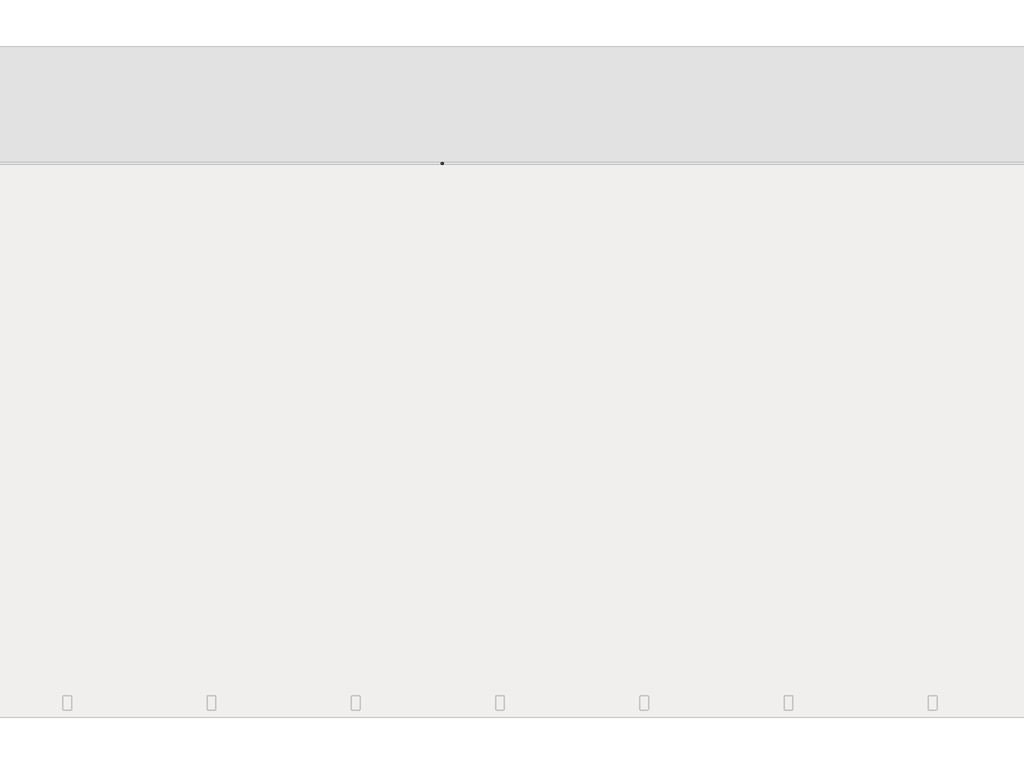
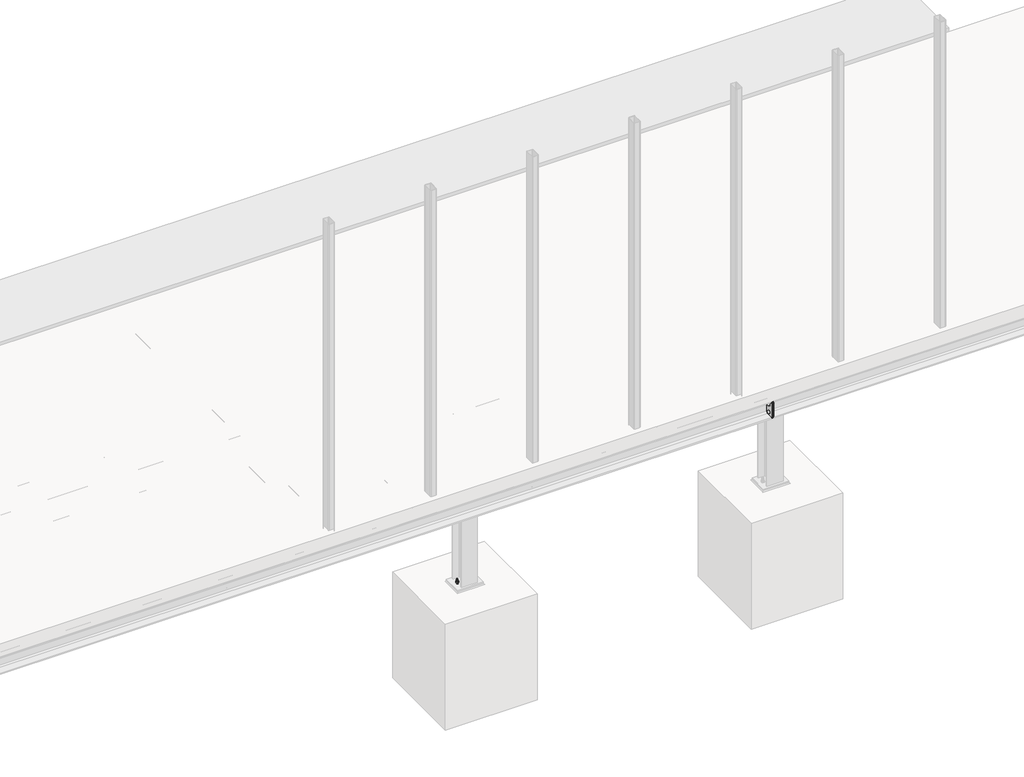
# One storey, part 11 of 36: 13 proxies.
"""IFC4 building model written with IfcOpenShell, lengths in millimetres."""

import ifcopenshell
import ifcopenshell.guid

model = None  # the IFC model being written
_history = None  # IfcOwnerHistory: only IFC2X3 demands one
_inside = {}  # id of a spatial element -> (the spatial element, [elements in it])
_under = {}  # id of a project, library or spatial element -> (it, [spatial elements below it])
_declared = {}  # id of a project -> (the project, [libraries it declares])
_typed = {}  # id of a type object -> (the type object, [elements of that type])
_made_of = {}  # id of a material, layer set ... -> (it, [elements and type objects made of it])


def new_model(schema):
    """Start an empty IFC model of exactly this schema.

    Asked for "IFC4X3", IfcOpenShell would pick the latest addendum, in which some entities
    have other attributes; the version numbers below select the first issue.
    IFC2X3 requires an IfcOwnerHistory on every rooted entity: one is made here for all.
    """
    global model, _history
    if schema == "IFC4X3":
        model = ifcopenshell.file(schema_version=(4, 3, 0, 0))
    else:
        model = ifcopenshell.file(schema=schema)
    _inside.clear()
    _under.clear()
    _declared.clear()
    _typed.clear()
    _made_of.clear()
    _history = None
    if model.schema == "IFC2X3":
        org = make("IfcOrganization", Name="unknown")
        user = make(
            "IfcPersonAndOrganization",
            ThePerson=make("IfcPerson", FamilyName="unknown"),
            TheOrganization=org,
        )
        app = make(
            "IfcApplication",
            ApplicationDeveloper=org,
            Version="unknown",
            ApplicationFullName="unknown",
            ApplicationIdentifier="unknown",
        )
        _history = make(
            "IfcOwnerHistory",
            OwningUser=user,
            OwningApplication=app,
            ChangeAction="ADDED",
            CreationDate=0,
        )
    return model


def make(cls, **values):
    """One entity of the class cls with the attributes given. An attribute that is None is left unset."""
    return model.create_entity(
        cls, **{name: value for name, value in values.items() if value is not None}
    )


def rooted(cls, **values):
    """An entity with a GlobalId (a new one), such as an element, a storey or a relation."""
    return make(cls, GlobalId=ifcopenshell.guid.new(), OwnerHistory=_history, **values)


def si_unit(unit_type, name, prefix=None):
    """IfcSIUnit, for example si_unit("LENGTHUNIT", "METRE", prefix="MILLI")."""
    return make("IfcSIUnit", UnitType=unit_type, Prefix=prefix, Name=name)


def assignment(units):
    """IfcUnitAssignment: the units of a project."""
    return None if units is None else make("IfcUnitAssignment", Units=units)


def point(xyz):
    """IfcCartesianPoint."""
    return None if xyz is None else make("IfcCartesianPoint", Coordinates=xyz)


def direction(xyz):
    """IfcDirection."""
    return None if xyz is None else make("IfcDirection", DirectionRatios=xyz)


def frame(location, z_axis=None, x_axis=None):
    """IfcAxis2Placement3D, a coordinate frame: its origin and axes. An axis left out is left unset."""
    return make(
        "IfcAxis2Placement3D",
        Location=point(location),
        Axis=direction(z_axis),
        RefDirection=direction(x_axis),
    )


def frame_2d(location, x_axis=None):
    """IfcAxis2Placement2D, a coordinate frame in the plane: its origin and x axis."""
    return make(
        "IfcAxis2Placement2D", Location=point(location), RefDirection=direction(x_axis)
    )


def origin():
    """The frame at (0, 0, 0) with its axes left unset."""
    return frame((0.0, 0.0, 0.0))


def place(relative_to, where):
    """IfcLocalPlacement: puts the frame where relative to a parent placement (None: the world)."""
    return make(
        "IfcLocalPlacement", PlacementRelTo=relative_to, RelativePlacement=where
    )


def context(
    kind, dimensions, precision=None, world=None, true_north=None, identifier=None
):
    """IfcGeometricRepresentationContext, for example the 3D "Model" context."""
    return make(
        "IfcGeometricRepresentationContext",
        ContextIdentifier=identifier,
        ContextType=kind,
        CoordinateSpaceDimension=dimensions,
        Precision=precision,
        WorldCoordinateSystem=world,
        TrueNorth=true_north,
    )


def project(units=None, contexts=None):
    """IfcProject with its units and contexts."""
    return rooted(
        "IfcProject",
        Name="project",
        RepresentationContexts=contexts,
        UnitsInContext=assignment(units),
    )


def spatial(cls, under=None, at=None, **own):
    """A site, building, storey or space (cls), placed at a placement, below another one or the project."""
    s = rooted(cls, ObjectPlacement=at, **own)
    if under is not None:
        _under.setdefault(under.id(), (under, []))[1].append(s)
    return s


def polyline(points):
    """IfcPolyline through the points."""
    return make("IfcPolyline", Points=[point(p) for p in points])


def circle_curve(where, radius):
    """IfcCircle in the frame where."""
    return make("IfcCircle", Position=where, Radius=radius)


def trimmed(basis, trim1, trim2, sense, master):
    """IfcTrimmedCurve: the piece of a basis curve between two trims."""
    return make(
        "IfcTrimmedCurve",
        BasisCurve=basis,
        Trim1=trim1,
        Trim2=trim2,
        SenseAgreement=sense,
        MasterRepresentation=master,
    )


def segment(curve, same_sense, transition):
    """IfcCompositeCurveSegment."""
    return make(
        "IfcCompositeCurveSegment",
        Transition=transition,
        SameSense=same_sense,
        ParentCurve=curve,
    )


def composite_curve(segments, self_intersect=None):
    """IfcCompositeCurve: segments joined end to end."""
    return make("IfcCompositeCurve", Segments=segments, SelfIntersect=self_intersect)


def outline(outer, holes=None, kind="AREA"):
    """IfcArbitraryClosedProfileDef: a profile drawn as a closed curve; with holes, ...WithVoids."""
    if holes is None:
        return make("IfcArbitraryClosedProfileDef", ProfileType=kind, OuterCurve=outer)
    return make(
        "IfcArbitraryProfileDefWithVoids",
        ProfileType=kind,
        OuterCurve=outer,
        InnerCurves=holes,
    )


def extrude(swept, where, along, depth):
    """IfcExtrudedAreaSolid: the profile swept, set in the frame where, extruded along a direction by depth."""
    return make(
        "IfcExtrudedAreaSolid",
        SweptArea=swept,
        Position=where,
        ExtrudedDirection=direction(along),
        Depth=depth,
    )


def shape(context_of_items, identifier, shape_type, items):
    """IfcShapeRepresentation: the items that make up one representation, for example the "Body"."""
    return make(
        "IfcShapeRepresentation",
        ContextOfItems=context_of_items,
        RepresentationIdentifier=identifier,
        RepresentationType=shape_type,
        Items=items,
    )


def made_of(thing, what):
    """Note that an element or type object is made of a material, layer set ...; save() writes the relation."""
    if what is not None:
        _made_of.setdefault(what.id(), (what, []))[1].append(thing)
    return thing


def element(
    cls,
    number,
    at=None,
    inside=None,
    cuts=None,
    type_object=None,
    material=None,
    context=None,
    identifier="Body",
    shape_type=None,
    held_by="IfcProductDefinitionShape",
    body=None,
    shapes=None,
    **own,
):
    """One element of the class cls, such as IfcWall. Its Tag is "e" and its number.

    at: its placement. inside: the storey or other place that contains it. cuts: it is an
    opening in that element (IfcRelVoidsElement). A single representation is given by context,
    identifier, shape_type and body (its items); several are given by shapes. held_by: the class
    of the entity that holds the representations. save() writes the other relations.
    """
    e = rooted(cls, Tag="e%d" % number, ObjectPlacement=at, **own)
    if body is not None:
        shapes = [shape(context, identifier, shape_type, body)]
    if shapes is not None:
        e.Representation = make(held_by, Representations=shapes)
    if inside is not None:
        _inside.setdefault(inside.id(), (inside, []))[1].append(e)
    if cuts is not None:
        rooted(
            "IfcRelVoidsElement", RelatingBuildingElement=cuts, RelatedOpeningElement=e
        )
    if type_object is not None:
        _typed.setdefault(type_object.id(), (type_object, []))[1].append(e)
    return made_of(e, material)


def aggregate(whole, parts):
    """IfcRelAggregates: a whole, such as a stair, and the parts it consists of."""
    return rooted("IfcRelAggregates", RelatingObject=whole, RelatedObjects=parts)


def save(model, path):
    """Write the relations noted so far, then the file.

    IfcRelAggregates (storeys below a building ...), IfcRelContainedInSpatialStructure (elements
    in a storey), IfcRelDefinesByType, IfcRelAssociatesMaterial and IfcRelDeclares: one each for
    every whole, place, type object, material and project.
    """
    for whole, parts in _under.values():
        aggregate(whole, parts)
    for where, things in _inside.values():
        rooted(
            "IfcRelContainedInSpatialStructure",
            RelatedElements=things,
            RelatingStructure=where,
        )
    for kind, things in _typed.values():
        rooted("IfcRelDefinesByType", RelatedObjects=things, RelatingType=kind)
    for what, things in _made_of.values():
        rooted("IfcRelAssociatesMaterial", RelatedObjects=things, RelatingMaterial=what)
    for by, libraries in _declared.values():
        rooted("IfcRelDeclares", RelatingContext=by, RelatedDefinitions=libraries)
    model.write(path)


model = new_model("IFC4")

# Units and contexts
model_context = context("Model", 3, world=origin())
ifc_project = project(units=[si_unit("LENGTHUNIT", "METRE", prefix="MILLI")], contexts=[model_context])

# Site, building, storey
site = spatial("IfcSite", under=ifc_project)
building = spatial("IfcBuilding", under=site)
storey = spatial("IfcBuildingStorey", under=building, Name="Základy", Elevation=-1200.0)

# Proxies
placement = place(None, origin())
element("IfcBuildingElementProxy", 1, Name="PLECH", ObjectType="PLECH", at=placement, inside=storey, context=model_context, shape_type="SweptSolid", body=[
    extrude(outline(polyline([(5960.0, 3775.0), (6140.0, 3775.0), (6140.0, 3767.0), (5960.0, 3767.0), (5960.0, 3775.0)])), frame((0.0, 0.0, -316.0), z_axis=(0.0, 0.0, 1.0), x_axis=(1.0, 0.0, 0.0)), (0.0, 0.0, 1.0), 132.0),
])
element("IfcBuildingElementProxy", 2, Name="PLECH", ObjectType="PLECH", at=placement, inside=storey, context=model_context, shape_type="SweptSolid", body=[
    extrude(outline(polyline([(6140.0, 1346.0), (6140.0, 1174.0), (5960.0, 1174.0), (5960.0, 1346.0), (6140.0, 1346.0)])), frame((0.0, 0.0, -350.0), z_axis=(0.0, 0.0, 1.0), x_axis=(1.0, 0.0, 0.0)), (0.0, 0.0, 1.0), 10.0),
])
element("IfcBuildingElementProxy", 3, Name="PLECH", ObjectType="PLECH", at=placement, inside=storey, context=model_context, shape_type="SweptSolid", body=[
    extrude(outline(composite_curve([segment(polyline([(3785.0, -170.5), (3834.5, -170.5)]), True, "CONTINUOUS"), segment(trimmed(circle_curve(frame_2d((3854.5, -170.5)), 20.0), [point((3834.5, -170.5))], [point((3854.5, -190.5))], True, "CARTESIAN"), True, "CONTINUOUS"), segment(polyline([(3854.5, -190.5), (3854.5, -309.5)]), True, "CONTINUOUS"), segment(trimmed(circle_curve(frame_2d((3854.5, -329.5)), 20.0), [point((3854.5, -309.5))], [point((3834.5, -329.5))], True, "CARTESIAN"), True, "CONTINUOUS"), segment(polyline([(3834.5, -329.5), (3785.0, -329.5), (3785.0, -170.5)]), True, "CONTINUOUS")], self_intersect=False)), frame((6046.0, 0.0, 0.0), z_axis=(1.0, 0.0, 0.0), x_axis=(0.0, 1.0, 0.0)), (0.0, 0.0, 1.0), 8.0),
])
element("IfcBuildingElementProxy", 4, Name="PLECH", ObjectType="PLECH", at=placement, inside=storey, context=model_context, shape_type="SweptSolid", body=[
    extrude(outline(polyline([(5960.0, 3785.0), (6140.0, 3785.0), (6140.0, 3775.0), (5960.0, 3775.0), (5960.0, 3785.0)])), frame((0.0, 0.0, -332.0), z_axis=(0.0, 0.0, 1.0), x_axis=(1.0, 0.0, 0.0)), (0.0, 0.0, 1.0), 164.0),
])
element("IfcBuildingElementProxy", 5, Name="PLECH", ObjectType="PLECH", at=placement, inside=storey, context=model_context, shape_type="SweptSolid", body=[
    extrude(outline(polyline([(6650.0, 3855.0), (6650.0, 3785.0), (6640.0, 3785.0), (6640.0, 3855.0), (6650.0, 3855.0)])), frame((0.0, 0.0, -329.5), z_axis=(0.0, 0.0, 1.0), x_axis=(1.0, 0.0, 0.0)), (0.0, 0.0, 1.0), 159.0),
])
element("IfcBuildingElementProxy", 6, Name="PLECH", ObjectType="PLECH", at=placement, inside=storey, context=model_context, shape_type="SweptSolid", body=[
    extrude(outline(polyline([(8350.0, 190.0), (8350.0, 10.0), (8340.0, 10.0), (8340.0, 190.0), (8350.0, 190.0)])), frame((0.0, 0.0, -332.0), z_axis=(0.0, 0.0, 1.0), x_axis=(1.0, 0.0, 0.0)), (0.0, 0.0, 1.0), 164.0),
])
element("IfcBuildingElementProxy", 7, Name="PLECH", ObjectType="PLECH", at=placement, inside=storey, context=model_context, shape_type="SweptSolid", body=[
    extrude(outline(polyline([(6660.0, 3855.0), (6660.0, 3785.0), (6650.0, 3785.0), (6650.0, 3855.0), (6660.0, 3855.0)])), frame((0.0, 0.0, -329.5), z_axis=(0.0, 0.0, 1.0), x_axis=(1.0, 0.0, 0.0)), (0.0, 0.0, 1.0), 159.0),
])
element("IfcBuildingElementProxy", 8, Name="PLECH", ObjectType="PLECH", at=placement, inside=storey, context=model_context, shape_type="SweptSolid", body=[
    extrude(outline(polyline([(8360.0, 190.0), (8360.0, 10.0), (8350.0, 10.0), (8350.0, 190.0), (8360.0, 190.0)])), frame((0.0, 0.0, -332.0), z_axis=(0.0, 0.0, 1.0), x_axis=(1.0, 0.0, 0.0)), (0.0, 0.0, 1.0), 164.0),
])
element("IfcBuildingElementProxy", 9, Name="Bolt assembly", ObjectType="Bolt assembly", at=placement, inside=storey, context=model_context, shape_type="SweptSolid", body=[
    extrude(outline(polyline([(5982.7364934, 1260.0), (5978.8682467, 1253.3000002), (5971.1317533, 1253.3000002), (5967.2635066, 1260.0), (5971.1317533, 1266.6999998), (5978.8682467, 1266.6999998), (5982.7364934, 1260.0)])), frame((0.0, 0.0, -2122.0), z_axis=(0.0, 0.0, 1.0), x_axis=(1.0, 0.0, 0.0)), (0.0, 0.0, 1.0), 132.0),
    extrude(outline(composite_curve([segment(trimmed(circle_curve(frame_2d((5975.0, 1260.0)), 8.0), [point((5983.0, 1260.0))], [point((5967.0, 1260.0))], False, "CARTESIAN"), True, "CONTINUOUS"), segment(trimmed(circle_curve(frame_2d((5975.0, 1260.0)), 8.0), [point((5967.0, 1260.0))], [point((5983.0, 1260.0))], False, "CARTESIAN"), True, "CONTINUOUS")], self_intersect=False)), frame((0.0, 0.0, -1990.0), z_axis=(0.0, 0.0, 1.0), x_axis=(1.0, 0.0, 0.0)), (0.0, 0.0, 1.0), 58.0),
    extrude(outline(composite_curve([segment(trimmed(circle_curve(frame_2d((5975.0, 1260.0)), 15.0), [point((5990.0, 1260.0))], [point((5960.0, 1260.0))], False, "CARTESIAN"), True, "CONTINUOUS"), segment(trimmed(circle_curve(frame_2d((5975.0, 1260.0)), 15.0), [point((5960.0, 1260.0))], [point((5990.0, 1260.0))], False, "CARTESIAN"), True, "CONTINUOUS")], self_intersect=False)), frame((0.0, 0.0, -1975.0), z_axis=(0.0, 0.0, 1.0), x_axis=(1.0, 0.0, 0.0)), (0.0, 0.0, 1.0), 3.0),
    extrude(outline(polyline([(5990.4441197, 1260.0), (5982.7220599, 1246.625), (5967.2779401, 1246.625), (5959.5558803, 1260.0), (5967.2779401, 1273.375), (5982.7220599, 1273.375), (5990.4441197, 1260.0)])), frame((0.0, 0.0, -1972.0), z_axis=(0.0, 0.0, 1.0), x_axis=(1.0, 0.0, 0.0)), (0.0, 0.0, 1.0), 13.0),
    extrude(outline(composite_curve([segment(trimmed(circle_curve(frame_2d((5975.0, 1260.0)), 9.0), [point((5984.0, 1260.0))], [point((5966.0, 1260.0))], False, "CARTESIAN"), True, "CONTINUOUS"), segment(trimmed(circle_curve(frame_2d((5975.0, 1260.0)), 9.0), [point((5966.0, 1260.0))], [point((5984.0, 1260.0))], False, "CARTESIAN"), True, "CONTINUOUS")], self_intersect=False)), frame((0.0, 0.0, -1990.0), z_axis=(0.0, 0.0, 1.0), x_axis=(1.0, 0.0, 0.0)), (0.0, 0.0, 1.0), 15.1),
    extrude(outline(polyline([(6132.7364934, 1260.0), (6128.8682467, 1253.3000002), (6121.1317533, 1253.3000002), (6117.2635066, 1260.0), (6121.1317533, 1266.6999998), (6128.8682467, 1266.6999998), (6132.7364934, 1260.0)])), frame((0.0, 0.0, -2122.0), z_axis=(0.0, 0.0, 1.0), x_axis=(1.0, 0.0, 0.0)), (0.0, 0.0, 1.0), 132.0),
    extrude(outline(composite_curve([segment(trimmed(circle_curve(frame_2d((6125.0, 1260.0)), 8.0), [point((6133.0, 1260.0))], [point((6117.0, 1260.0))], False, "CARTESIAN"), True, "CONTINUOUS"), segment(trimmed(circle_curve(frame_2d((6125.0, 1260.0)), 8.0), [point((6117.0, 1260.0))], [point((6133.0, 1260.0))], False, "CARTESIAN"), True, "CONTINUOUS")], self_intersect=False)), frame((0.0, 0.0, -1990.0), z_axis=(0.0, 0.0, 1.0), x_axis=(1.0, 0.0, 0.0)), (0.0, 0.0, 1.0), 58.0),
    extrude(outline(composite_curve([segment(trimmed(circle_curve(frame_2d((6125.0, 1260.0)), 15.0), [point((6140.0, 1260.0))], [point((6110.0, 1260.0))], False, "CARTESIAN"), True, "CONTINUOUS"), segment(trimmed(circle_curve(frame_2d((6125.0, 1260.0)), 15.0), [point((6110.0, 1260.0))], [point((6140.0, 1260.0))], False, "CARTESIAN"), True, "CONTINUOUS")], self_intersect=False)), frame((0.0, 0.0, -1975.0), z_axis=(0.0, 0.0, 1.0), x_axis=(1.0, 0.0, 0.0)), (0.0, 0.0, 1.0), 3.0),
    extrude(outline(polyline([(6140.4441197, 1260.0), (6132.7220599, 1246.625), (6117.2779401, 1246.625), (6109.5558803, 1260.0), (6117.2779401, 1273.375), (6132.7220599, 1273.375), (6140.4441197, 1260.0)])), frame((0.0, 0.0, -1972.0), z_axis=(0.0, 0.0, 1.0), x_axis=(1.0, 0.0, 0.0)), (0.0, 0.0, 1.0), 13.0),
    extrude(outline(composite_curve([segment(trimmed(circle_curve(frame_2d((6125.0, 1260.0)), 9.0), [point((6134.0, 1260.0))], [point((6116.0, 1260.0))], False, "CARTESIAN"), True, "CONTINUOUS"), segment(trimmed(circle_curve(frame_2d((6125.0, 1260.0)), 9.0), [point((6116.0, 1260.0))], [point((6134.0, 1260.0))], False, "CARTESIAN"), True, "CONTINUOUS")], self_intersect=False)), frame((0.0, 0.0, -1990.0), z_axis=(0.0, 0.0, 1.0), x_axis=(1.0, 0.0, 0.0)), (0.0, 0.0, 1.0), 15.1),
])
element("IfcBuildingElementProxy", 10, Name="Bolt assembly", ObjectType="Bolt assembly", at=placement, inside=storey, context=model_context, shape_type="SweptSolid", body=[
    extrude(outline(composite_curve([segment(trimmed(circle_curve(frame_2d((6000.0, 1220.0)), 6.5), [point((6006.5, 1220.0))], [point((5993.5, 1220.0))], False, "CARTESIAN"), True, "CONTINUOUS"), segment(trimmed(circle_curve(frame_2d((6000.0, 1220.0)), 6.5), [point((5993.5, 1220.0))], [point((6006.5, 1220.0))], False, "CARTESIAN"), True, "CONTINUOUS")], self_intersect=False)), frame((0.0, 0.0, -350.0), z_axis=(0.0, 0.0, 1.0), x_axis=(1.0, 0.0, 0.0)), (0.0, 0.0, 1.0), 10.1),
    extrude(outline(polyline([(6010.3923048, 1220.0), (6005.1961524, 1211.0), (5994.8038476, 1211.0), (5989.6076952, 1220.0), (5994.8038476, 1229.0), (6005.1961524, 1229.0), (6010.3923048, 1220.0)])), frame((0.0, 0.0, -323.5), z_axis=(0.0, 0.0, 1.0), x_axis=(1.0, 0.0, 0.0)), (0.0, 0.0, 1.0), 7.5),
    extrude(outline(composite_curve([segment(trimmed(circle_curve(frame_2d((6000.0, 1220.0)), 6.0), [point((6006.0, 1220.0))], [point((5994.0, 1220.0))], False, "CARTESIAN"), True, "CONTINUOUS"), segment(trimmed(circle_curve(frame_2d((6000.0, 1220.0)), 6.0), [point((5994.0, 1220.0))], [point((6006.0, 1220.0))], False, "CARTESIAN"), True, "CONTINUOUS")], self_intersect=False)), frame((0.0, 0.0, -368.5), z_axis=(0.0, 0.0, 1.0), x_axis=(1.0, 0.0, 0.0)), (0.0, 0.0, 1.0), 45.0),
    extrude(outline(composite_curve([segment(trimmed(circle_curve(frame_2d((6000.0, 1220.0)), 12.0), [point((6012.0, 1220.0))], [point((5988.0, 1220.0))], False, "CARTESIAN"), True, "CONTINUOUS"), segment(trimmed(circle_curve(frame_2d((6000.0, 1220.0)), 12.0), [point((5988.0, 1220.0))], [point((6012.0, 1220.0))], False, "CARTESIAN"), True, "CONTINUOUS")], self_intersect=False)), frame((0.0, 0.0, -326.0), z_axis=(0.0, 0.0, 1.0), x_axis=(1.0, 0.0, 0.0)), (0.0, 0.0, 1.0), 2.5),
    extrude(outline(composite_curve([segment(trimmed(circle_curve(frame_2d((6000.0, 1220.0)), 12.0), [point((6012.0, 1220.0))], [point((5988.0, 1220.0))], False, "CARTESIAN"), True, "CONTINUOUS"), segment(trimmed(circle_curve(frame_2d((6000.0, 1220.0)), 12.0), [point((5988.0, 1220.0))], [point((6012.0, 1220.0))], False, "CARTESIAN"), True, "CONTINUOUS")], self_intersect=False)), frame((0.0, 0.0, -352.5), z_axis=(0.0, 0.0, 1.0), x_axis=(1.0, 0.0, 0.0)), (0.0, 0.0, 1.0), 2.5),
    extrude(outline(polyline([(6010.9696551, 1220.0), (6005.4848276, 1210.5), (5994.5151724, 1210.5), (5989.0303449, 1220.0), (5994.5151724, 1229.5), (6005.4848276, 1229.5), (6010.9696551, 1220.0)])), frame((0.0, 0.0, -362.5), z_axis=(0.0, 0.0, 1.0), x_axis=(1.0, 0.0, 0.0)), (0.0, 0.0, 1.0), 10.0),
    extrude(outline(composite_curve([segment(trimmed(circle_curve(frame_2d((6000.0, 1220.0)), 6.5), [point((6006.5, 1220.0))], [point((5993.5, 1220.0))], False, "CARTESIAN"), True, "CONTINUOUS"), segment(trimmed(circle_curve(frame_2d((6000.0, 1220.0)), 6.5), [point((5993.5, 1220.0))], [point((6006.5, 1220.0))], False, "CARTESIAN"), True, "CONTINUOUS")], self_intersect=False)), frame((0.0, 0.0, -340.1), z_axis=(0.0, 0.0, 1.0), x_axis=(1.0, 0.0, 0.0)), (0.0, 0.0, 1.0), 14.0),
    extrude(outline(composite_curve([segment(trimmed(circle_curve(frame_2d((6100.0, 1220.0)), 6.5), [point((6106.5, 1220.0))], [point((6093.5, 1220.0))], False, "CARTESIAN"), True, "CONTINUOUS"), segment(trimmed(circle_curve(frame_2d((6100.0, 1220.0)), 6.5), [point((6093.5, 1220.0))], [point((6106.5, 1220.0))], False, "CARTESIAN"), True, "CONTINUOUS")], self_intersect=False)), frame((0.0, 0.0, -350.0), z_axis=(0.0, 0.0, 1.0), x_axis=(1.0, 0.0, 0.0)), (0.0, 0.0, 1.0), 10.1),
    extrude(outline(polyline([(6110.3923048, 1220.0), (6105.1961524, 1211.0), (6094.8038476, 1211.0), (6089.6076952, 1220.0), (6094.8038476, 1229.0), (6105.1961524, 1229.0), (6110.3923048, 1220.0)])), frame((0.0, 0.0, -323.5), z_axis=(0.0, 0.0, 1.0), x_axis=(1.0, 0.0, 0.0)), (0.0, 0.0, 1.0), 7.5),
    extrude(outline(composite_curve([segment(trimmed(circle_curve(frame_2d((6100.0, 1220.0)), 6.0), [point((6106.0, 1220.0))], [point((6094.0, 1220.0))], False, "CARTESIAN"), True, "CONTINUOUS"), segment(trimmed(circle_curve(frame_2d((6100.0, 1220.0)), 6.0), [point((6094.0, 1220.0))], [point((6106.0, 1220.0))], False, "CARTESIAN"), True, "CONTINUOUS")], self_intersect=False)), frame((0.0, 0.0, -368.5), z_axis=(0.0, 0.0, 1.0), x_axis=(1.0, 0.0, 0.0)), (0.0, 0.0, 1.0), 45.0),
    extrude(outline(composite_curve([segment(trimmed(circle_curve(frame_2d((6100.0, 1220.0)), 12.0), [point((6112.0, 1220.0))], [point((6088.0, 1220.0))], False, "CARTESIAN"), True, "CONTINUOUS"), segment(trimmed(circle_curve(frame_2d((6100.0, 1220.0)), 12.0), [point((6088.0, 1220.0))], [point((6112.0, 1220.0))], False, "CARTESIAN"), True, "CONTINUOUS")], self_intersect=False)), frame((0.0, 0.0, -326.0), z_axis=(0.0, 0.0, 1.0), x_axis=(1.0, 0.0, 0.0)), (0.0, 0.0, 1.0), 2.5),
    extrude(outline(composite_curve([segment(trimmed(circle_curve(frame_2d((6100.0, 1220.0)), 12.0), [point((6112.0, 1220.0))], [point((6088.0, 1220.0))], False, "CARTESIAN"), True, "CONTINUOUS"), segment(trimmed(circle_curve(frame_2d((6100.0, 1220.0)), 12.0), [point((6088.0, 1220.0))], [point((6112.0, 1220.0))], False, "CARTESIAN"), True, "CONTINUOUS")], self_intersect=False)), frame((0.0, 0.0, -352.5), z_axis=(0.0, 0.0, 1.0), x_axis=(1.0, 0.0, 0.0)), (0.0, 0.0, 1.0), 2.5),
    extrude(outline(polyline([(6110.9696551, 1220.0), (6105.4848276, 1210.5), (6094.5151724, 1210.5), (6089.0303449, 1220.0), (6094.5151724, 1229.5), (6105.4848276, 1229.5), (6110.9696551, 1220.0)])), frame((0.0, 0.0, -362.5), z_axis=(0.0, 0.0, 1.0), x_axis=(1.0, 0.0, 0.0)), (0.0, 0.0, 1.0), 10.0),
    extrude(outline(composite_curve([segment(trimmed(circle_curve(frame_2d((6100.0, 1220.0)), 6.5), [point((6106.5, 1220.0))], [point((6093.5, 1220.0))], False, "CARTESIAN"), True, "CONTINUOUS"), segment(trimmed(circle_curve(frame_2d((6100.0, 1220.0)), 6.5), [point((6093.5, 1220.0))], [point((6106.5, 1220.0))], False, "CARTESIAN"), True, "CONTINUOUS")], self_intersect=False)), frame((0.0, 0.0, -340.1), z_axis=(0.0, 0.0, 1.0), x_axis=(1.0, 0.0, 0.0)), (0.0, 0.0, 1.0), 14.0),
    extrude(outline(composite_curve([segment(trimmed(circle_curve(frame_2d((6000.0, 1300.0)), 6.5), [point((6006.5, 1300.0))], [point((5993.5, 1300.0))], False, "CARTESIAN"), True, "CONTINUOUS"), segment(trimmed(circle_curve(frame_2d((6000.0, 1300.0)), 6.5), [point((5993.5, 1300.0))], [point((6006.5, 1300.0))], False, "CARTESIAN"), True, "CONTINUOUS")], self_intersect=False)), frame((0.0, 0.0, -350.0), z_axis=(0.0, 0.0, 1.0), x_axis=(1.0, 0.0, 0.0)), (0.0, 0.0, 1.0), 10.1),
    extrude(outline(polyline([(6010.3923048, 1300.0), (6005.1961524, 1291.0), (5994.8038476, 1291.0), (5989.6076952, 1300.0), (5994.8038476, 1309.0), (6005.1961524, 1309.0), (6010.3923048, 1300.0)])), frame((0.0, 0.0, -323.5), z_axis=(0.0, 0.0, 1.0), x_axis=(1.0, 0.0, 0.0)), (0.0, 0.0, 1.0), 7.5),
    extrude(outline(composite_curve([segment(trimmed(circle_curve(frame_2d((6000.0, 1300.0)), 6.0), [point((6006.0, 1300.0))], [point((5994.0, 1300.0))], False, "CARTESIAN"), True, "CONTINUOUS"), segment(trimmed(circle_curve(frame_2d((6000.0, 1300.0)), 6.0), [point((5994.0, 1300.0))], [point((6006.0, 1300.0))], False, "CARTESIAN"), True, "CONTINUOUS")], self_intersect=False)), frame((0.0, 0.0, -368.5), z_axis=(0.0, 0.0, 1.0), x_axis=(1.0, 0.0, 0.0)), (0.0, 0.0, 1.0), 45.0),
    extrude(outline(composite_curve([segment(trimmed(circle_curve(frame_2d((6000.0, 1300.0)), 12.0), [point((6012.0, 1300.0))], [point((5988.0, 1300.0))], False, "CARTESIAN"), True, "CONTINUOUS"), segment(trimmed(circle_curve(frame_2d((6000.0, 1300.0)), 12.0), [point((5988.0, 1300.0))], [point((6012.0, 1300.0))], False, "CARTESIAN"), True, "CONTINUOUS")], self_intersect=False)), frame((0.0, 0.0, -326.0), z_axis=(0.0, 0.0, 1.0), x_axis=(1.0, 0.0, 0.0)), (0.0, 0.0, 1.0), 2.5),
    extrude(outline(composite_curve([segment(trimmed(circle_curve(frame_2d((6000.0, 1300.0)), 12.0), [point((6012.0, 1300.0))], [point((5988.0, 1300.0))], False, "CARTESIAN"), True, "CONTINUOUS"), segment(trimmed(circle_curve(frame_2d((6000.0, 1300.0)), 12.0), [point((5988.0, 1300.0))], [point((6012.0, 1300.0))], False, "CARTESIAN"), True, "CONTINUOUS")], self_intersect=False)), frame((0.0, 0.0, -352.5), z_axis=(0.0, 0.0, 1.0), x_axis=(1.0, 0.0, 0.0)), (0.0, 0.0, 1.0), 2.5),
    extrude(outline(polyline([(6010.9696551, 1300.0), (6005.4848276, 1290.5), (5994.5151724, 1290.5), (5989.0303449, 1300.0), (5994.5151724, 1309.5), (6005.4848276, 1309.5), (6010.9696551, 1300.0)])), frame((0.0, 0.0, -362.5), z_axis=(0.0, 0.0, 1.0), x_axis=(1.0, 0.0, 0.0)), (0.0, 0.0, 1.0), 10.0),
    extrude(outline(composite_curve([segment(trimmed(circle_curve(frame_2d((6000.0, 1300.0)), 6.5), [point((6006.5, 1300.0))], [point((5993.5, 1300.0))], False, "CARTESIAN"), True, "CONTINUOUS"), segment(trimmed(circle_curve(frame_2d((6000.0, 1300.0)), 6.5), [point((5993.5, 1300.0))], [point((6006.5, 1300.0))], False, "CARTESIAN"), True, "CONTINUOUS")], self_intersect=False)), frame((0.0, 0.0, -340.1), z_axis=(0.0, 0.0, 1.0), x_axis=(1.0, 0.0, 0.0)), (0.0, 0.0, 1.0), 14.0),
    extrude(outline(composite_curve([segment(trimmed(circle_curve(frame_2d((6100.0, 1300.0)), 6.5), [point((6106.5, 1300.0))], [point((6093.5, 1300.0))], False, "CARTESIAN"), True, "CONTINUOUS"), segment(trimmed(circle_curve(frame_2d((6100.0, 1300.0)), 6.5), [point((6093.5, 1300.0))], [point((6106.5, 1300.0))], False, "CARTESIAN"), True, "CONTINUOUS")], self_intersect=False)), frame((0.0, 0.0, -350.0), z_axis=(0.0, 0.0, 1.0), x_axis=(1.0, 0.0, 0.0)), (0.0, 0.0, 1.0), 10.1),
    extrude(outline(polyline([(6110.3923048, 1300.0), (6105.1961524, 1291.0), (6094.8038476, 1291.0), (6089.6076952, 1300.0), (6094.8038476, 1309.0), (6105.1961524, 1309.0), (6110.3923048, 1300.0)])), frame((0.0, 0.0, -323.5), z_axis=(0.0, 0.0, 1.0), x_axis=(1.0, 0.0, 0.0)), (0.0, 0.0, 1.0), 7.5),
    extrude(outline(composite_curve([segment(trimmed(circle_curve(frame_2d((6100.0, 1300.0)), 6.0), [point((6106.0, 1300.0))], [point((6094.0, 1300.0))], False, "CARTESIAN"), True, "CONTINUOUS"), segment(trimmed(circle_curve(frame_2d((6100.0, 1300.0)), 6.0), [point((6094.0, 1300.0))], [point((6106.0, 1300.0))], False, "CARTESIAN"), True, "CONTINUOUS")], self_intersect=False)), frame((0.0, 0.0, -368.5), z_axis=(0.0, 0.0, 1.0), x_axis=(1.0, 0.0, 0.0)), (0.0, 0.0, 1.0), 45.0),
    extrude(outline(composite_curve([segment(trimmed(circle_curve(frame_2d((6100.0, 1300.0)), 12.0), [point((6112.0, 1300.0))], [point((6088.0, 1300.0))], False, "CARTESIAN"), True, "CONTINUOUS"), segment(trimmed(circle_curve(frame_2d((6100.0, 1300.0)), 12.0), [point((6088.0, 1300.0))], [point((6112.0, 1300.0))], False, "CARTESIAN"), True, "CONTINUOUS")], self_intersect=False)), frame((0.0, 0.0, -326.0), z_axis=(0.0, 0.0, 1.0), x_axis=(1.0, 0.0, 0.0)), (0.0, 0.0, 1.0), 2.5),
    extrude(outline(composite_curve([segment(trimmed(circle_curve(frame_2d((6100.0, 1300.0)), 12.0), [point((6112.0, 1300.0))], [point((6088.0, 1300.0))], False, "CARTESIAN"), True, "CONTINUOUS"), segment(trimmed(circle_curve(frame_2d((6100.0, 1300.0)), 12.0), [point((6088.0, 1300.0))], [point((6112.0, 1300.0))], False, "CARTESIAN"), True, "CONTINUOUS")], self_intersect=False)), frame((0.0, 0.0, -352.5), z_axis=(0.0, 0.0, 1.0), x_axis=(1.0, 0.0, 0.0)), (0.0, 0.0, 1.0), 2.5),
    extrude(outline(polyline([(6110.9696551, 1300.0), (6105.4848276, 1290.5), (6094.5151724, 1290.5), (6089.0303449, 1300.0), (6094.5151724, 1309.5), (6105.4848276, 1309.5), (6110.9696551, 1300.0)])), frame((0.0, 0.0, -362.5), z_axis=(0.0, 0.0, 1.0), x_axis=(1.0, 0.0, 0.0)), (0.0, 0.0, 1.0), 10.0),
    extrude(outline(composite_curve([segment(trimmed(circle_curve(frame_2d((6100.0, 1300.0)), 6.5), [point((6106.5, 1300.0))], [point((6093.5, 1300.0))], False, "CARTESIAN"), True, "CONTINUOUS"), segment(trimmed(circle_curve(frame_2d((6100.0, 1300.0)), 6.5), [point((6093.5, 1300.0))], [point((6106.5, 1300.0))], False, "CARTESIAN"), True, "CONTINUOUS")], self_intersect=False)), frame((0.0, 0.0, -340.1), z_axis=(0.0, 0.0, 1.0), x_axis=(1.0, 0.0, 0.0)), (0.0, 0.0, 1.0), 14.0),
])
element("IfcBuildingElementProxy", 11, Name="Bolt assembly", ObjectType="Bolt assembly", at=placement, inside=storey, context=model_context, shape_type="SweptSolid", body=[
    extrude(outline(composite_curve([segment(trimmed(circle_curve(frame_2d((-220.0, 6005.0)), 9.0), [point((-220.0, 6014.0))], [point((-220.0, 5996.0))], False, "CARTESIAN"), True, "CONTINUOUS"), segment(trimmed(circle_curve(frame_2d((-220.0, 6005.0)), 9.0), [point((-220.0, 5996.0))], [point((-220.0, 6014.0))], False, "CARTESIAN"), True, "CONTINUOUS")], self_intersect=False)), frame((0.0, 3774.9, 0.0), z_axis=(0.0, 1.0, 0.0), x_axis=(0.0, 0.0, 1.0)), (0.0, 0.0, 1.0), 10.0),
    extrude(outline(polyline([(-220.0, 6018.8564065), (-208.0, 6011.9282032), (-208.0, 5998.0717968), (-220.0, 5991.1435935), (-232.0, 5998.0717968), (-232.0, 6011.9282032), (-220.0, 6018.8564065)])), frame((0.0, 3788.0, 0.0), z_axis=(0.0, 1.0, 0.0), x_axis=(0.0, 0.0, 1.0)), (0.0, 0.0, 1.0), 10.0),
    extrude(outline(composite_curve([segment(trimmed(circle_curve(frame_2d((-220.0, 6005.0)), 8.0), [point((-220.0, 6013.0))], [point((-220.0, 5997.0))], False, "CARTESIAN"), True, "CONTINUOUS"), segment(trimmed(circle_curve(frame_2d((-220.0, 6005.0)), 8.0), [point((-220.0, 5997.0))], [point((-220.0, 6013.0))], False, "CARTESIAN"), True, "CONTINUOUS")], self_intersect=False)), frame((0.0, 3738.0, 0.0), z_axis=(0.0, 1.0, 0.0), x_axis=(0.0, 0.0, 1.0)), (0.0, 0.0, 1.0), 50.0),
    extrude(outline(composite_curve([segment(trimmed(circle_curve(frame_2d((-220.0, 6005.0)), 15.0), [point((-220.0, 6020.0))], [point((-220.0, 5990.0))], False, "CARTESIAN"), True, "CONTINUOUS"), segment(trimmed(circle_curve(frame_2d((-220.0, 6005.0)), 15.0), [point((-220.0, 5990.0))], [point((-220.0, 6020.0))], False, "CARTESIAN"), True, "CONTINUOUS")], self_intersect=False)), frame((0.0, 3785.0, 0.0), z_axis=(0.0, 1.0, 0.0), x_axis=(0.0, 0.0, 1.0)), (0.0, 0.0, 1.0), 3.0),
    extrude(outline(composite_curve([segment(trimmed(circle_curve(frame_2d((-220.0, 6005.0)), 15.0), [point((-220.0, 6020.0))], [point((-220.0, 5990.0))], False, "CARTESIAN"), True, "CONTINUOUS"), segment(trimmed(circle_curve(frame_2d((-220.0, 6005.0)), 15.0), [point((-220.0, 5990.0))], [point((-220.0, 6020.0))], False, "CARTESIAN"), True, "CONTINUOUS")], self_intersect=False)), frame((0.0, 3764.0, 0.0), z_axis=(0.0, 1.0, 0.0), x_axis=(0.0, 0.0, 1.0)), (0.0, 0.0, 1.0), 3.0),
    extrude(outline(polyline([(-220.0, 6020.4441197), (-206.625, 6012.7220599), (-206.625, 5997.2779401), (-220.0, 5989.5558803), (-233.375, 5997.2779401), (-233.375, 6012.7220599), (-220.0, 6020.4441197)])), frame((0.0, 3751.0, 0.0), z_axis=(0.0, 1.0, 0.0), x_axis=(0.0, 0.0, 1.0)), (0.0, 0.0, 1.0), 13.0),
    extrude(outline(composite_curve([segment(trimmed(circle_curve(frame_2d((-220.0, 6005.0)), 9.0), [point((-220.0, 6014.0))], [point((-220.0, 5996.0))], False, "CARTESIAN"), True, "CONTINUOUS"), segment(trimmed(circle_curve(frame_2d((-220.0, 6005.0)), 9.0), [point((-220.0, 5996.0))], [point((-220.0, 6014.0))], False, "CARTESIAN"), True, "CONTINUOUS")], self_intersect=False)), frame((0.0, 3767.0, 0.0), z_axis=(0.0, 1.0, 0.0), x_axis=(0.0, 0.0, 1.0)), (0.0, 0.0, 1.0), 8.1),
    extrude(outline(composite_curve([segment(trimmed(circle_curve(frame_2d((-220.0, 6095.0)), 9.0), [point((-220.0, 6104.0))], [point((-220.0, 6086.0))], False, "CARTESIAN"), True, "CONTINUOUS"), segment(trimmed(circle_curve(frame_2d((-220.0, 6095.0)), 9.0), [point((-220.0, 6086.0))], [point((-220.0, 6104.0))], False, "CARTESIAN"), True, "CONTINUOUS")], self_intersect=False)), frame((0.0, 3774.9, 0.0), z_axis=(0.0, 1.0, 0.0), x_axis=(0.0, 0.0, 1.0)), (0.0, 0.0, 1.0), 10.0),
    extrude(outline(polyline([(-220.0, 6108.8564065), (-208.0, 6101.9282032), (-208.0, 6088.0717968), (-220.0, 6081.1435935), (-232.0, 6088.0717968), (-232.0, 6101.9282032), (-220.0, 6108.8564065)])), frame((0.0, 3788.0, 0.0), z_axis=(0.0, 1.0, 0.0), x_axis=(0.0, 0.0, 1.0)), (0.0, 0.0, 1.0), 10.0),
    extrude(outline(composite_curve([segment(trimmed(circle_curve(frame_2d((-220.0, 6095.0)), 8.0), [point((-220.0, 6103.0))], [point((-220.0, 6087.0))], False, "CARTESIAN"), True, "CONTINUOUS"), segment(trimmed(circle_curve(frame_2d((-220.0, 6095.0)), 8.0), [point((-220.0, 6087.0))], [point((-220.0, 6103.0))], False, "CARTESIAN"), True, "CONTINUOUS")], self_intersect=False)), frame((0.0, 3738.0, 0.0), z_axis=(0.0, 1.0, 0.0), x_axis=(0.0, 0.0, 1.0)), (0.0, 0.0, 1.0), 50.0),
    extrude(outline(composite_curve([segment(trimmed(circle_curve(frame_2d((-220.0, 6095.0)), 15.0), [point((-220.0, 6110.0))], [point((-220.0, 6080.0))], False, "CARTESIAN"), True, "CONTINUOUS"), segment(trimmed(circle_curve(frame_2d((-220.0, 6095.0)), 15.0), [point((-220.0, 6080.0))], [point((-220.0, 6110.0))], False, "CARTESIAN"), True, "CONTINUOUS")], self_intersect=False)), frame((0.0, 3785.0, 0.0), z_axis=(0.0, 1.0, 0.0), x_axis=(0.0, 0.0, 1.0)), (0.0, 0.0, 1.0), 3.0),
    extrude(outline(composite_curve([segment(trimmed(circle_curve(frame_2d((-220.0, 6095.0)), 15.0), [point((-220.0, 6110.0))], [point((-220.0, 6080.0))], False, "CARTESIAN"), True, "CONTINUOUS"), segment(trimmed(circle_curve(frame_2d((-220.0, 6095.0)), 15.0), [point((-220.0, 6080.0))], [point((-220.0, 6110.0))], False, "CARTESIAN"), True, "CONTINUOUS")], self_intersect=False)), frame((0.0, 3764.0, 0.0), z_axis=(0.0, 1.0, 0.0), x_axis=(0.0, 0.0, 1.0)), (0.0, 0.0, 1.0), 3.0),
    extrude(outline(polyline([(-220.0, 6110.4441197), (-206.625, 6102.7220599), (-206.625, 6087.2779401), (-220.0, 6079.5558803), (-233.375, 6087.2779401), (-233.375, 6102.7220599), (-220.0, 6110.4441197)])), frame((0.0, 3751.0, 0.0), z_axis=(0.0, 1.0, 0.0), x_axis=(0.0, 0.0, 1.0)), (0.0, 0.0, 1.0), 13.0),
    extrude(outline(composite_curve([segment(trimmed(circle_curve(frame_2d((-220.0, 6095.0)), 9.0), [point((-220.0, 6104.0))], [point((-220.0, 6086.0))], False, "CARTESIAN"), True, "CONTINUOUS"), segment(trimmed(circle_curve(frame_2d((-220.0, 6095.0)), 9.0), [point((-220.0, 6086.0))], [point((-220.0, 6104.0))], False, "CARTESIAN"), True, "CONTINUOUS")], self_intersect=False)), frame((0.0, 3767.0, 0.0), z_axis=(0.0, 1.0, 0.0), x_axis=(0.0, 0.0, 1.0)), (0.0, 0.0, 1.0), 8.1),
    extrude(outline(composite_curve([segment(trimmed(circle_curve(frame_2d((-280.0, 6005.0)), 9.0), [point((-280.0, 6014.0))], [point((-280.0, 5996.0))], False, "CARTESIAN"), True, "CONTINUOUS"), segment(trimmed(circle_curve(frame_2d((-280.0, 6005.0)), 9.0), [point((-280.0, 5996.0))], [point((-280.0, 6014.0))], False, "CARTESIAN"), True, "CONTINUOUS")], self_intersect=False)), frame((0.0, 3774.9, 0.0), z_axis=(0.0, 1.0, 0.0), x_axis=(0.0, 0.0, 1.0)), (0.0, 0.0, 1.0), 10.0),
    extrude(outline(polyline([(-280.0, 6018.8564065), (-268.0, 6011.9282032), (-268.0, 5998.0717968), (-280.0, 5991.1435935), (-292.0, 5998.0717968), (-292.0, 6011.9282032), (-280.0, 6018.8564065)])), frame((0.0, 3788.0, 0.0), z_axis=(0.0, 1.0, 0.0), x_axis=(0.0, 0.0, 1.0)), (0.0, 0.0, 1.0), 10.0),
    extrude(outline(composite_curve([segment(trimmed(circle_curve(frame_2d((-280.0, 6005.0)), 8.0), [point((-280.0, 6013.0))], [point((-280.0, 5997.0))], False, "CARTESIAN"), True, "CONTINUOUS"), segment(trimmed(circle_curve(frame_2d((-280.0, 6005.0)), 8.0), [point((-280.0, 5997.0))], [point((-280.0, 6013.0))], False, "CARTESIAN"), True, "CONTINUOUS")], self_intersect=False)), frame((0.0, 3738.0, 0.0), z_axis=(0.0, 1.0, 0.0), x_axis=(0.0, 0.0, 1.0)), (0.0, 0.0, 1.0), 50.0),
    extrude(outline(composite_curve([segment(trimmed(circle_curve(frame_2d((-280.0, 6005.0)), 15.0), [point((-280.0, 6020.0))], [point((-280.0, 5990.0))], False, "CARTESIAN"), True, "CONTINUOUS"), segment(trimmed(circle_curve(frame_2d((-280.0, 6005.0)), 15.0), [point((-280.0, 5990.0))], [point((-280.0, 6020.0))], False, "CARTESIAN"), True, "CONTINUOUS")], self_intersect=False)), frame((0.0, 3785.0, 0.0), z_axis=(0.0, 1.0, 0.0), x_axis=(0.0, 0.0, 1.0)), (0.0, 0.0, 1.0), 3.0),
    extrude(outline(composite_curve([segment(trimmed(circle_curve(frame_2d((-280.0, 6005.0)), 15.0), [point((-280.0, 6020.0))], [point((-280.0, 5990.0))], False, "CARTESIAN"), True, "CONTINUOUS"), segment(trimmed(circle_curve(frame_2d((-280.0, 6005.0)), 15.0), [point((-280.0, 5990.0))], [point((-280.0, 6020.0))], False, "CARTESIAN"), True, "CONTINUOUS")], self_intersect=False)), frame((0.0, 3764.0, 0.0), z_axis=(0.0, 1.0, 0.0), x_axis=(0.0, 0.0, 1.0)), (0.0, 0.0, 1.0), 3.0),
    extrude(outline(polyline([(-280.0, 6020.4441197), (-266.625, 6012.7220599), (-266.625, 5997.2779401), (-280.0, 5989.5558803), (-293.375, 5997.2779401), (-293.375, 6012.7220599), (-280.0, 6020.4441197)])), frame((0.0, 3751.0, 0.0), z_axis=(0.0, 1.0, 0.0), x_axis=(0.0, 0.0, 1.0)), (0.0, 0.0, 1.0), 13.0),
    extrude(outline(composite_curve([segment(trimmed(circle_curve(frame_2d((-280.0, 6005.0)), 9.0), [point((-280.0, 6014.0))], [point((-280.0, 5996.0))], False, "CARTESIAN"), True, "CONTINUOUS"), segment(trimmed(circle_curve(frame_2d((-280.0, 6005.0)), 9.0), [point((-280.0, 5996.0))], [point((-280.0, 6014.0))], False, "CARTESIAN"), True, "CONTINUOUS")], self_intersect=False)), frame((0.0, 3767.0, 0.0), z_axis=(0.0, 1.0, 0.0), x_axis=(0.0, 0.0, 1.0)), (0.0, 0.0, 1.0), 8.1),
    extrude(outline(composite_curve([segment(trimmed(circle_curve(frame_2d((-280.0, 6095.0)), 9.0), [point((-280.0, 6104.0))], [point((-280.0, 6086.0))], False, "CARTESIAN"), True, "CONTINUOUS"), segment(trimmed(circle_curve(frame_2d((-280.0, 6095.0)), 9.0), [point((-280.0, 6086.0))], [point((-280.0, 6104.0))], False, "CARTESIAN"), True, "CONTINUOUS")], self_intersect=False)), frame((0.0, 3774.9, 0.0), z_axis=(0.0, 1.0, 0.0), x_axis=(0.0, 0.0, 1.0)), (0.0, 0.0, 1.0), 10.0),
    extrude(outline(polyline([(-280.0, 6108.8564065), (-268.0, 6101.9282032), (-268.0, 6088.0717968), (-280.0, 6081.1435935), (-292.0, 6088.0717968), (-292.0, 6101.9282032), (-280.0, 6108.8564065)])), frame((0.0, 3788.0, 0.0), z_axis=(0.0, 1.0, 0.0), x_axis=(0.0, 0.0, 1.0)), (0.0, 0.0, 1.0), 10.0),
    extrude(outline(composite_curve([segment(trimmed(circle_curve(frame_2d((-280.0, 6095.0)), 8.0), [point((-280.0, 6103.0))], [point((-280.0, 6087.0))], False, "CARTESIAN"), True, "CONTINUOUS"), segment(trimmed(circle_curve(frame_2d((-280.0, 6095.0)), 8.0), [point((-280.0, 6087.0))], [point((-280.0, 6103.0))], False, "CARTESIAN"), True, "CONTINUOUS")], self_intersect=False)), frame((0.0, 3738.0, 0.0), z_axis=(0.0, 1.0, 0.0), x_axis=(0.0, 0.0, 1.0)), (0.0, 0.0, 1.0), 50.0),
    extrude(outline(composite_curve([segment(trimmed(circle_curve(frame_2d((-280.0, 6095.0)), 15.0), [point((-280.0, 6110.0))], [point((-280.0, 6080.0))], False, "CARTESIAN"), True, "CONTINUOUS"), segment(trimmed(circle_curve(frame_2d((-280.0, 6095.0)), 15.0), [point((-280.0, 6080.0))], [point((-280.0, 6110.0))], False, "CARTESIAN"), True, "CONTINUOUS")], self_intersect=False)), frame((0.0, 3785.0, 0.0), z_axis=(0.0, 1.0, 0.0), x_axis=(0.0, 0.0, 1.0)), (0.0, 0.0, 1.0), 3.0),
    extrude(outline(composite_curve([segment(trimmed(circle_curve(frame_2d((-280.0, 6095.0)), 15.0), [point((-280.0, 6110.0))], [point((-280.0, 6080.0))], False, "CARTESIAN"), True, "CONTINUOUS"), segment(trimmed(circle_curve(frame_2d((-280.0, 6095.0)), 15.0), [point((-280.0, 6080.0))], [point((-280.0, 6110.0))], False, "CARTESIAN"), True, "CONTINUOUS")], self_intersect=False)), frame((0.0, 3764.0, 0.0), z_axis=(0.0, 1.0, 0.0), x_axis=(0.0, 0.0, 1.0)), (0.0, 0.0, 1.0), 3.0),
    extrude(outline(polyline([(-280.0, 6110.4441197), (-266.625, 6102.7220599), (-266.625, 6087.2779401), (-280.0, 6079.5558803), (-293.375, 6087.2779401), (-293.375, 6102.7220599), (-280.0, 6110.4441197)])), frame((0.0, 3751.0, 0.0), z_axis=(0.0, 1.0, 0.0), x_axis=(0.0, 0.0, 1.0)), (0.0, 0.0, 1.0), 13.0),
    extrude(outline(composite_curve([segment(trimmed(circle_curve(frame_2d((-280.0, 6095.0)), 9.0), [point((-280.0, 6104.0))], [point((-280.0, 6086.0))], False, "CARTESIAN"), True, "CONTINUOUS"), segment(trimmed(circle_curve(frame_2d((-280.0, 6095.0)), 9.0), [point((-280.0, 6086.0))], [point((-280.0, 6104.0))], False, "CARTESIAN"), True, "CONTINUOUS")], self_intersect=False)), frame((0.0, 3767.0, 0.0), z_axis=(0.0, 1.0, 0.0), x_axis=(0.0, 0.0, 1.0)), (0.0, 0.0, 1.0), 8.1),
])
element("IfcBuildingElementProxy", 12, Name="Bolt assembly", ObjectType="Bolt assembly", at=placement, inside=storey, context=model_context, shape_type="SweptSolid", body=[
    extrude(outline(polyline([(-250.0, 5934.8149546), (-241.5, 5929.9074773), (-241.5, 5920.0925227), (-250.0, 5915.1850454), (-258.5, 5920.0925227), (-258.5, 5929.9074773), (-250.0, 5934.8149546)])), frame((0.0, 3860.0, 0.0), z_axis=(0.0, 1.0, 0.0), x_axis=(0.0, 0.0, 1.0)), (0.0, 0.0, 1.0), 168.0),
    extrude(outline(composite_curve([segment(trimmed(circle_curve(frame_2d((-250.0, 5925.0)), 10.0), [point((-250.0, 5935.0))], [point((-250.0, 5915.0))], False, "CARTESIAN"), True, "CONTINUOUS"), segment(trimmed(circle_curve(frame_2d((-250.0, 5925.0)), 10.0), [point((-250.0, 5915.0))], [point((-250.0, 5935.0))], False, "CARTESIAN"), True, "CONTINUOUS")], self_intersect=False)), frame((0.0, 3788.0, 0.0), z_axis=(0.0, 1.0, 0.0), x_axis=(0.0, 0.0, 1.0)), (0.0, 0.0, 1.0), 72.0),
    extrude(outline(composite_curve([segment(trimmed(circle_curve(frame_2d((-250.0, 5925.0)), 18.5), [point((-250.0, 5943.5))], [point((-250.0, 5906.5))], False, "CARTESIAN"), True, "CONTINUOUS"), segment(trimmed(circle_curve(frame_2d((-250.0, 5925.0)), 18.5), [point((-250.0, 5906.5))], [point((-250.0, 5943.5))], False, "CARTESIAN"), True, "CONTINUOUS")], self_intersect=False)), frame((0.0, 3851.5, 0.0), z_axis=(0.0, 1.0, 0.0), x_axis=(0.0, 0.0, 1.0)), (0.0, 0.0, 1.0), 3.0),
    extrude(outline(polyline([(-250.0, 5942.3205081), (-235.0, 5933.660254), (-235.0, 5916.339746), (-250.0, 5907.6794919), (-265.0, 5916.339746), (-265.0, 5933.660254), (-250.0, 5942.3205081)])), frame((0.0, 3835.5, 0.0), z_axis=(0.0, 1.0, 0.0), x_axis=(0.0, 0.0, 1.0)), (0.0, 0.0, 1.0), 16.0),
    extrude(outline(composite_curve([segment(trimmed(circle_curve(frame_2d((-250.0, 5925.0)), 11.0), [point((-250.0, 5936.0))], [point((-250.0, 5914.0))], False, "CARTESIAN"), True, "CONTINUOUS"), segment(trimmed(circle_curve(frame_2d((-250.0, 5925.0)), 11.0), [point((-250.0, 5914.0))], [point((-250.0, 5936.0))], False, "CARTESIAN"), True, "CONTINUOUS")], self_intersect=False)), frame((0.0, 3854.4, 0.0), z_axis=(0.0, 1.0, 0.0), x_axis=(0.0, 0.0, 1.0)), (0.0, 0.0, 1.0), 5.6),
    extrude(outline(polyline([(-250.0, 6184.8149546), (-241.5, 6179.9074773), (-241.5, 6170.0925227), (-250.0, 6165.1850454), (-258.5, 6170.0925227), (-258.5, 6179.9074773), (-250.0, 6184.8149546)])), frame((0.0, 3860.0, 0.0), z_axis=(0.0, 1.0, 0.0), x_axis=(0.0, 0.0, 1.0)), (0.0, 0.0, 1.0), 168.0),
    extrude(outline(composite_curve([segment(trimmed(circle_curve(frame_2d((-250.0, 6175.0)), 10.0), [point((-250.0, 6185.0))], [point((-250.0, 6165.0))], False, "CARTESIAN"), True, "CONTINUOUS"), segment(trimmed(circle_curve(frame_2d((-250.0, 6175.0)), 10.0), [point((-250.0, 6165.0))], [point((-250.0, 6185.0))], False, "CARTESIAN"), True, "CONTINUOUS")], self_intersect=False)), frame((0.0, 3788.0, 0.0), z_axis=(0.0, 1.0, 0.0), x_axis=(0.0, 0.0, 1.0)), (0.0, 0.0, 1.0), 72.0),
    extrude(outline(composite_curve([segment(trimmed(circle_curve(frame_2d((-250.0, 6175.0)), 18.5), [point((-250.0, 6193.5))], [point((-250.0, 6156.5))], False, "CARTESIAN"), True, "CONTINUOUS"), segment(trimmed(circle_curve(frame_2d((-250.0, 6175.0)), 18.5), [point((-250.0, 6156.5))], [point((-250.0, 6193.5))], False, "CARTESIAN"), True, "CONTINUOUS")], self_intersect=False)), frame((0.0, 3851.5, 0.0), z_axis=(0.0, 1.0, 0.0), x_axis=(0.0, 0.0, 1.0)), (0.0, 0.0, 1.0), 3.0),
    extrude(outline(polyline([(-250.0, 6192.3205081), (-235.0, 6183.660254), (-235.0, 6166.339746), (-250.0, 6157.6794919), (-265.0, 6166.339746), (-265.0, 6183.660254), (-250.0, 6192.3205081)])), frame((0.0, 3835.5, 0.0), z_axis=(0.0, 1.0, 0.0), x_axis=(0.0, 0.0, 1.0)), (0.0, 0.0, 1.0), 16.0),
    extrude(outline(composite_curve([segment(trimmed(circle_curve(frame_2d((-250.0, 6175.0)), 11.0), [point((-250.0, 6186.0))], [point((-250.0, 6164.0))], False, "CARTESIAN"), True, "CONTINUOUS"), segment(trimmed(circle_curve(frame_2d((-250.0, 6175.0)), 11.0), [point((-250.0, 6164.0))], [point((-250.0, 6186.0))], False, "CARTESIAN"), True, "CONTINUOUS")], self_intersect=False)), frame((0.0, 3854.4, 0.0), z_axis=(0.0, 1.0, 0.0), x_axis=(0.0, 0.0, 1.0)), (0.0, 0.0, 1.0), 5.6),
])
element("IfcBuildingElementProxy", 13, Name="Bolt assembly", ObjectType="Bolt assembly", at=placement, inside=storey, context=model_context, shape_type="SweptSolid", body=[
    extrude(outline(composite_curve([segment(trimmed(circle_curve(frame_2d((3820.5, -290.0)), 9.0), [point((3829.5, -290.0))], [point((3811.5, -290.0))], False, "CARTESIAN"), True, "CONTINUOUS"), segment(trimmed(circle_curve(frame_2d((3820.5, -290.0)), 9.0), [point((3811.5, -290.0))], [point((3829.5, -290.0))], False, "CARTESIAN"), True, "CONTINUOUS")], self_intersect=False)), frame((6649.9, 0.0, 0.0), z_axis=(1.0, 0.0, 0.0), x_axis=(0.0, 1.0, 0.0)), (0.0, 0.0, 1.0), 10.0),
    extrude(outline(polyline([(3834.3564065, -290.0), (3827.4282032, -302.0), (3813.5717968, -302.0), (3806.6435935, -290.0), (3813.5717968, -278.0), (3827.4282032, -278.0), (3834.3564065, -290.0)])), frame((6663.0, 0.0, 0.0), z_axis=(1.0, 0.0, 0.0), x_axis=(0.0, 1.0, 0.0)), (0.0, 0.0, 1.0), 10.0),
    extrude(outline(composite_curve([segment(trimmed(circle_curve(frame_2d((3820.5, -290.0)), 8.0), [point((3828.5, -290.0))], [point((3812.5, -290.0))], False, "CARTESIAN"), True, "CONTINUOUS"), segment(trimmed(circle_curve(frame_2d((3820.5, -290.0)), 8.0), [point((3812.5, -290.0))], [point((3828.5, -290.0))], False, "CARTESIAN"), True, "CONTINUOUS")], self_intersect=False)), frame((6613.0, 0.0, 0.0), z_axis=(1.0, 0.0, 0.0), x_axis=(0.0, 1.0, 0.0)), (0.0, 0.0, 1.0), 50.0),
    extrude(outline(composite_curve([segment(trimmed(circle_curve(frame_2d((3820.5, -290.0)), 15.0), [point((3835.5, -290.0))], [point((3805.5, -290.0))], False, "CARTESIAN"), True, "CONTINUOUS"), segment(trimmed(circle_curve(frame_2d((3820.5, -290.0)), 15.0), [point((3805.5, -290.0))], [point((3835.5, -290.0))], False, "CARTESIAN"), True, "CONTINUOUS")], self_intersect=False)), frame((6660.0, 0.0, 0.0), z_axis=(1.0, 0.0, 0.0), x_axis=(0.0, 1.0, 0.0)), (0.0, 0.0, 1.0), 3.0),
    extrude(outline(composite_curve([segment(trimmed(circle_curve(frame_2d((3820.5, -290.0)), 15.0), [point((3835.5, -290.0))], [point((3805.5, -290.0))], False, "CARTESIAN"), True, "CONTINUOUS"), segment(trimmed(circle_curve(frame_2d((3820.5, -290.0)), 15.0), [point((3805.5, -290.0))], [point((3835.5, -290.0))], False, "CARTESIAN"), True, "CONTINUOUS")], self_intersect=False)), frame((6637.0, 0.0, 0.0), z_axis=(1.0, 0.0, 0.0), x_axis=(0.0, 1.0, 0.0)), (0.0, 0.0, 1.0), 3.0),
    extrude(outline(polyline([(3835.9441197, -290.0), (3828.2220599, -303.375), (3812.7779401, -303.375), (3805.0558803, -290.0), (3812.7779401, -276.625), (3828.2220599, -276.625), (3835.9441197, -290.0)])), frame((6624.0, 0.0, 0.0), z_axis=(1.0, 0.0, 0.0), x_axis=(0.0, 1.0, 0.0)), (0.0, 0.0, 1.0), 13.0),
    extrude(outline(composite_curve([segment(trimmed(circle_curve(frame_2d((3820.5, -290.0)), 9.0), [point((3829.5, -290.0))], [point((3811.5, -290.0))], False, "CARTESIAN"), True, "CONTINUOUS"), segment(trimmed(circle_curve(frame_2d((3820.5, -290.0)), 9.0), [point((3811.5, -290.0))], [point((3829.5, -290.0))], False, "CARTESIAN"), True, "CONTINUOUS")], self_intersect=False)), frame((6640.0, 0.0, 0.0), z_axis=(1.0, 0.0, 0.0), x_axis=(0.0, 1.0, 0.0)), (0.0, 0.0, 1.0), 10.1),
    extrude(outline(composite_curve([segment(trimmed(circle_curve(frame_2d((3820.5, -210.0)), 9.0), [point((3829.5, -210.0))], [point((3811.5, -210.0))], False, "CARTESIAN"), True, "CONTINUOUS"), segment(trimmed(circle_curve(frame_2d((3820.5, -210.0)), 9.0), [point((3811.5, -210.0))], [point((3829.5, -210.0))], False, "CARTESIAN"), True, "CONTINUOUS")], self_intersect=False)), frame((6649.9, 0.0, 0.0), z_axis=(1.0, 0.0, 0.0), x_axis=(0.0, 1.0, 0.0)), (0.0, 0.0, 1.0), 10.0),
    extrude(outline(polyline([(3834.3564065, -210.0), (3827.4282032, -222.0), (3813.5717968, -222.0), (3806.6435935, -210.0), (3813.5717968, -198.0), (3827.4282032, -198.0), (3834.3564065, -210.0)])), frame((6663.0, 0.0, 0.0), z_axis=(1.0, 0.0, 0.0), x_axis=(0.0, 1.0, 0.0)), (0.0, 0.0, 1.0), 10.0),
    extrude(outline(composite_curve([segment(trimmed(circle_curve(frame_2d((3820.5, -210.0)), 8.0), [point((3828.5, -210.0))], [point((3812.5, -210.0))], False, "CARTESIAN"), True, "CONTINUOUS"), segment(trimmed(circle_curve(frame_2d((3820.5, -210.0)), 8.0), [point((3812.5, -210.0))], [point((3828.5, -210.0))], False, "CARTESIAN"), True, "CONTINUOUS")], self_intersect=False)), frame((6613.0, 0.0, 0.0), z_axis=(1.0, 0.0, 0.0), x_axis=(0.0, 1.0, 0.0)), (0.0, 0.0, 1.0), 50.0),
    extrude(outline(composite_curve([segment(trimmed(circle_curve(frame_2d((3820.5, -210.0)), 15.0), [point((3835.5, -210.0))], [point((3805.5, -210.0))], False, "CARTESIAN"), True, "CONTINUOUS"), segment(trimmed(circle_curve(frame_2d((3820.5, -210.0)), 15.0), [point((3805.5, -210.0))], [point((3835.5, -210.0))], False, "CARTESIAN"), True, "CONTINUOUS")], self_intersect=False)), frame((6660.0, 0.0, 0.0), z_axis=(1.0, 0.0, 0.0), x_axis=(0.0, 1.0, 0.0)), (0.0, 0.0, 1.0), 3.0),
    extrude(outline(composite_curve([segment(trimmed(circle_curve(frame_2d((3820.5, -210.0)), 15.0), [point((3835.5, -210.0))], [point((3805.5, -210.0))], False, "CARTESIAN"), True, "CONTINUOUS"), segment(trimmed(circle_curve(frame_2d((3820.5, -210.0)), 15.0), [point((3805.5, -210.0))], [point((3835.5, -210.0))], False, "CARTESIAN"), True, "CONTINUOUS")], self_intersect=False)), frame((6637.0, 0.0, 0.0), z_axis=(1.0, 0.0, 0.0), x_axis=(0.0, 1.0, 0.0)), (0.0, 0.0, 1.0), 3.0),
    extrude(outline(polyline([(3835.9441197, -210.0), (3828.2220599, -223.375), (3812.7779401, -223.375), (3805.0558803, -210.0), (3812.7779401, -196.625), (3828.2220599, -196.625), (3835.9441197, -210.0)])), frame((6624.0, 0.0, 0.0), z_axis=(1.0, 0.0, 0.0), x_axis=(0.0, 1.0, 0.0)), (0.0, 0.0, 1.0), 13.0),
    extrude(outline(composite_curve([segment(trimmed(circle_curve(frame_2d((3820.5, -210.0)), 9.0), [point((3829.5, -210.0))], [point((3811.5, -210.0))], False, "CARTESIAN"), True, "CONTINUOUS"), segment(trimmed(circle_curve(frame_2d((3820.5, -210.0)), 9.0), [point((3811.5, -210.0))], [point((3829.5, -210.0))], False, "CARTESIAN"), True, "CONTINUOUS")], self_intersect=False)), frame((6640.0, 0.0, 0.0), z_axis=(1.0, 0.0, 0.0), x_axis=(0.0, 1.0, 0.0)), (0.0, 0.0, 1.0), 10.1),
])

save(model, "model.ifc")
